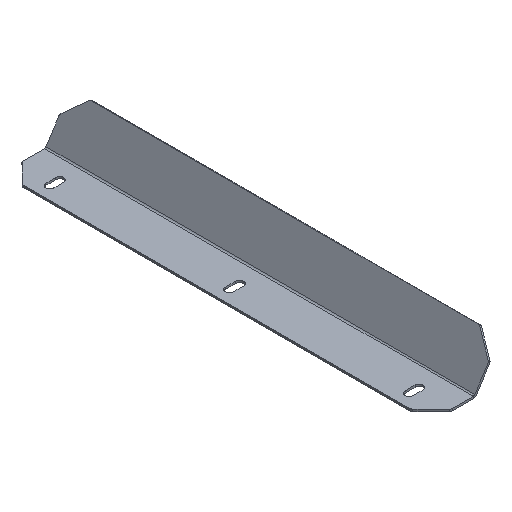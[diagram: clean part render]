
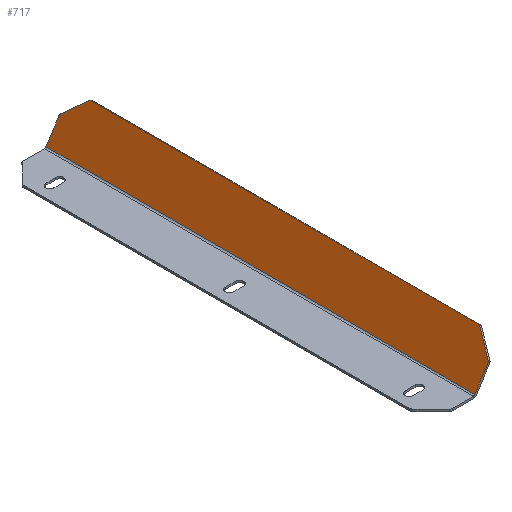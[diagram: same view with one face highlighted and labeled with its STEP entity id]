
A CAD part, isometric view. The second image highlights one B-rep face of the part: STEP entity #717.
In plain terms, the highlighted planar face has unit normal (-0.842, 0, 0.54).
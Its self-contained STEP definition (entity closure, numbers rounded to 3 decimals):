
#56=PLANE('',#792);
#85=FACE_OUTER_BOUND('',#123,.T.);
#123=EDGE_LOOP('',(#543,#544,#545,#546,#547,#548,#549,#550,#551,#552));
#179=LINE('',#1134,#247);
#182=LINE('',#1140,#250);
#183=LINE('',#1144,#251);
#184=LINE('',#1146,#252);
#185=LINE('',#1148,#253);
#186=LINE('',#1152,#254);
#247=VECTOR('',#920,10.);
#250=VECTOR('',#925,10.);
#251=VECTOR('',#928,10.);
#252=VECTOR('',#929,10.);
#253=VECTOR('',#930,10.);
#254=VECTOR('',#933,10.);
#302=CIRCLE('',#790,3.);
#303=CIRCLE('',#793,3.);
#304=CIRCLE('',#794,3.);
#305=CIRCLE('',#795,3.);
#349=VERTEX_POINT('',#1127);
#350=VERTEX_POINT('',#1129);
#351=VERTEX_POINT('',#1133);
#353=VERTEX_POINT('',#1139);
#354=VERTEX_POINT('',#1141);
#355=VERTEX_POINT('',#1143);
#356=VERTEX_POINT('',#1145);
#357=VERTEX_POINT('',#1147);
#358=VERTEX_POINT('',#1149);
#359=VERTEX_POINT('',#1151);
#425=EDGE_CURVE('',#349,#350,#302,.T.);
#427=EDGE_CURVE('',#351,#350,#179,.T.);
#430=EDGE_CURVE('',#353,#349,#182,.T.);
#431=EDGE_CURVE('',#354,#353,#303,.T.);
#432=EDGE_CURVE('',#355,#354,#183,.T.);
#433=EDGE_CURVE('',#355,#356,#184,.T.);
#434=EDGE_CURVE('',#356,#357,#185,.T.);
#435=EDGE_CURVE('',#358,#357,#304,.T.);
#436=EDGE_CURVE('',#359,#358,#186,.T.);
#437=EDGE_CURVE('',#351,#359,#305,.T.);
#543=ORIENTED_EDGE('',*,*,#425,.F.);
#544=ORIENTED_EDGE('',*,*,#430,.F.);
#545=ORIENTED_EDGE('',*,*,#431,.F.);
#546=ORIENTED_EDGE('',*,*,#432,.F.);
#547=ORIENTED_EDGE('',*,*,#433,.T.);
#548=ORIENTED_EDGE('',*,*,#434,.T.);
#549=ORIENTED_EDGE('',*,*,#435,.F.);
#550=ORIENTED_EDGE('',*,*,#436,.F.);
#551=ORIENTED_EDGE('',*,*,#437,.F.);
#552=ORIENTED_EDGE('',*,*,#427,.T.);
#717=ADVANCED_FACE('',(#85),#56,.T.);
#790=AXIS2_PLACEMENT_3D('',#1130,#915,#916);
#792=AXIS2_PLACEMENT_3D('',#1138,#923,#924);
#793=AXIS2_PLACEMENT_3D('',#1142,#926,#927);
#794=AXIS2_PLACEMENT_3D('',#1150,#931,#932);
#795=AXIS2_PLACEMENT_3D('',#1153,#934,#935);
#915=DIRECTION('center_axis',(0.841,0.,-0.54));
#916=DIRECTION('ref_axis',(0.499,0.383,0.777));
#920=DIRECTION('',(0.,1.,0.));
#923=DIRECTION('center_axis',(-0.841,0.,
0.54));
#924=DIRECTION('ref_axis',(0.54,0.,0.841));
#925=DIRECTION('',(0.382,-0.707,0.595));
#926=DIRECTION('center_axis',(0.841,0.,-0.54));
#927=DIRECTION('ref_axis',(0.207,0.924,0.322));
#928=DIRECTION('',(0.54,0.,0.841));
#929=DIRECTION('',(0.,-1.,0.));
#930=DIRECTION('',(0.54,0.,0.841));
#931=DIRECTION('center_axis',(0.841,0.,-0.54));
#932=DIRECTION('ref_axis',(0.207,-0.924,0.322));
#933=DIRECTION('',(-0.382,-0.707,-0.595));
#934=DIRECTION('center_axis',(0.841,0.,-0.54));
#935=DIRECTION('ref_axis',(0.499,-0.383,0.777));
#1127=CARTESIAN_POINT('',(32.247,-343.121,40.465));
#1129=CARTESIAN_POINT('',(32.721,-345.243,41.205));
#1130=CARTESIAN_POINT('Origin',(31.1,-345.243,38.68));
#1133=CARTESIAN_POINT('',(32.721,-734.757,41.205));
#1134=CARTESIAN_POINT('',(32.721,-756.,41.205));
#1138=CARTESIAN_POINT('Origin',(17.908,-540.,18.134));
#1139=CARTESIAN_POINT('',(22.39,-324.879,25.115));
#1140=CARTESIAN_POINT('',(52.791,-381.146,72.462));
#1141=CARTESIAN_POINT('',(21.244,-324.,23.33));
#1142=CARTESIAN_POINT('Origin',(21.244,-327.,23.33));
#1143=CARTESIAN_POINT('',(8.139,-324.,2.919));
#1144=CARTESIAN_POINT('',(3.095,-324.,-4.936));
#1145=CARTESIAN_POINT('',(8.139,-756.,2.919));
#1146=CARTESIAN_POINT('',(8.139,-540.,2.919));
#1147=CARTESIAN_POINT('',(21.244,-756.,23.33));
#1148=CARTESIAN_POINT('',(3.095,-756.,-4.936));
#1149=CARTESIAN_POINT('',(22.39,-755.121,25.115));
#1150=CARTESIAN_POINT('Origin',(21.244,-753.,23.33));
#1151=CARTESIAN_POINT('',(32.247,-736.879,40.465));
#1152=CARTESIAN_POINT('',(52.791,-698.854,72.462));
#1153=CARTESIAN_POINT('Origin',(31.1,-734.757,38.68));
